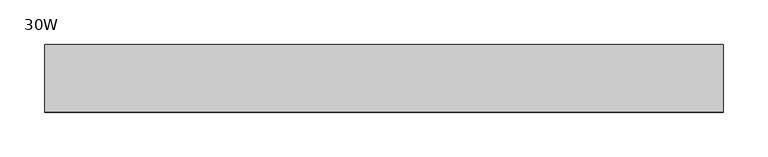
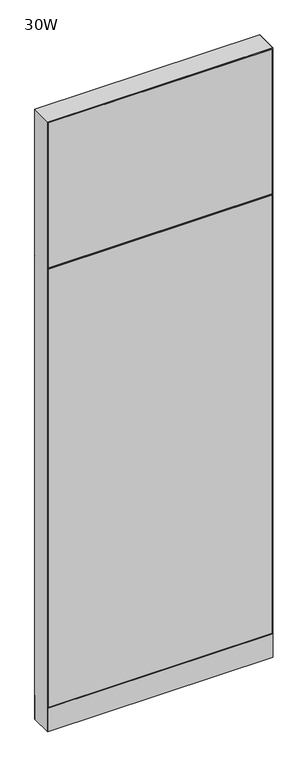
"""IFC4 building model written with IfcOpenShell, lengths in millimetres: furniture geometry, Steelcase - Montage - Frame - 86H - Enhanced Monolithic - Base Cavity : 30W."""

import ifcopenshell
import ifcopenshell.guid

model = None  # the IFC model being written
_history = None  # IfcOwnerHistory: only IFC2X3 demands one
_inside = {}  # id of a spatial element -> (the spatial element, [elements in it])
_under = {}  # id of a project, library or spatial element -> (it, [spatial elements below it])
_declared = {}  # id of a project -> (the project, [libraries it declares])
_typed = {}  # id of a type object -> (the type object, [elements of that type])
_made_of = {}  # id of a material, layer set ... -> (it, [elements and type objects made of it])


def new_model(schema):
    """Start an empty IFC model of exactly this schema.

    Asked for "IFC4X3", IfcOpenShell would pick the latest addendum, in which some entities
    have other attributes; the version numbers below select the first issue.
    IFC2X3 requires an IfcOwnerHistory on every rooted entity: one is made here for all.
    """
    global model, _history
    if schema == "IFC4X3":
        model = ifcopenshell.file(schema_version=(4, 3, 0, 0))
    else:
        model = ifcopenshell.file(schema=schema)
    _inside.clear()
    _under.clear()
    _declared.clear()
    _typed.clear()
    _made_of.clear()
    _history = None
    if model.schema == "IFC2X3":
        org = make("IfcOrganization", Name="unknown")
        user = make(
            "IfcPersonAndOrganization",
            ThePerson=make("IfcPerson", FamilyName="unknown"),
            TheOrganization=org,
        )
        app = make(
            "IfcApplication",
            ApplicationDeveloper=org,
            Version="unknown",
            ApplicationFullName="unknown",
            ApplicationIdentifier="unknown",
        )
        _history = make(
            "IfcOwnerHistory",
            OwningUser=user,
            OwningApplication=app,
            ChangeAction="ADDED",
            CreationDate=0,
        )
    return model


def make(cls, **values):
    """One entity of the class cls with the attributes given. An attribute that is None is left unset."""
    return model.create_entity(
        cls, **{name: value for name, value in values.items() if value is not None}
    )


def rooted(cls, **values):
    """An entity with a GlobalId (a new one), such as an element, a storey or a relation."""
    return make(cls, GlobalId=ifcopenshell.guid.new(), OwnerHistory=_history, **values)


def si_unit(unit_type, name, prefix=None):
    """IfcSIUnit, for example si_unit("LENGTHUNIT", "METRE", prefix="MILLI")."""
    return make("IfcSIUnit", UnitType=unit_type, Prefix=prefix, Name=name)


def assignment(units):
    """IfcUnitAssignment: the units of a project."""
    return None if units is None else make("IfcUnitAssignment", Units=units)


def point(xyz):
    """IfcCartesianPoint."""
    return None if xyz is None else make("IfcCartesianPoint", Coordinates=xyz)


def direction(xyz):
    """IfcDirection."""
    return None if xyz is None else make("IfcDirection", DirectionRatios=xyz)


def frame(location, z_axis=None, x_axis=None):
    """IfcAxis2Placement3D, a coordinate frame: its origin and axes. An axis left out is left unset."""
    return make(
        "IfcAxis2Placement3D",
        Location=point(location),
        Axis=direction(z_axis),
        RefDirection=direction(x_axis),
    )


def frame_2d(location, x_axis=None):
    """IfcAxis2Placement2D, a coordinate frame in the plane: its origin and x axis."""
    return make(
        "IfcAxis2Placement2D", Location=point(location), RefDirection=direction(x_axis)
    )


def origin():
    """The frame at (0, 0, 0) with its axes left unset."""
    return frame((0.0, 0.0, 0.0))


def origin_with_axes():
    """The frame at (0, 0, 0) with the z axis (0, 0, 1) and the x axis (1, 0, 0) written out."""
    return frame((0.0, 0.0, 0.0), z_axis=(0.0, 0.0, 1.0), x_axis=(1.0, 0.0, 0.0))


def place(relative_to, where):
    """IfcLocalPlacement: puts the frame where relative to a parent placement (None: the world)."""
    return make(
        "IfcLocalPlacement", PlacementRelTo=relative_to, RelativePlacement=where
    )


def context(
    kind, dimensions, precision=None, world=None, true_north=None, identifier=None
):
    """IfcGeometricRepresentationContext, for example the 3D "Model" context."""
    return make(
        "IfcGeometricRepresentationContext",
        ContextIdentifier=identifier,
        ContextType=kind,
        CoordinateSpaceDimension=dimensions,
        Precision=precision,
        WorldCoordinateSystem=world,
        TrueNorth=true_north,
    )


def project(units=None, contexts=None):
    """IfcProject with its units and contexts."""
    return rooted(
        "IfcProject",
        Name="project",
        RepresentationContexts=contexts,
        UnitsInContext=assignment(units),
    )


def spatial(cls, under=None, at=None, **own):
    """A site, building, storey or space (cls), placed at a placement, below another one or the project."""
    s = rooted(cls, ObjectPlacement=at, **own)
    if under is not None:
        _under.setdefault(under.id(), (under, []))[1].append(s)
    return s


def polyline(points):
    """IfcPolyline through the points."""
    return make("IfcPolyline", Points=[point(p) for p in points])


def circle_curve(where, radius):
    """IfcCircle in the frame where."""
    return make("IfcCircle", Position=where, Radius=radius)


def trimmed(basis, trim1, trim2, sense, master):
    """IfcTrimmedCurve: the piece of a basis curve between two trims."""
    return make(
        "IfcTrimmedCurve",
        BasisCurve=basis,
        Trim1=trim1,
        Trim2=trim2,
        SenseAgreement=sense,
        MasterRepresentation=master,
    )


def segment(curve, same_sense, transition):
    """IfcCompositeCurveSegment."""
    return make(
        "IfcCompositeCurveSegment",
        Transition=transition,
        SameSense=same_sense,
        ParentCurve=curve,
    )


def composite_curve(segments, self_intersect=None):
    """IfcCompositeCurve: segments joined end to end."""
    return make("IfcCompositeCurve", Segments=segments, SelfIntersect=self_intersect)


def outline(outer, holes=None, kind="AREA"):
    """IfcArbitraryClosedProfileDef: a profile drawn as a closed curve; with holes, ...WithVoids."""
    if holes is None:
        return make("IfcArbitraryClosedProfileDef", ProfileType=kind, OuterCurve=outer)
    return make(
        "IfcArbitraryProfileDefWithVoids",
        ProfileType=kind,
        OuterCurve=outer,
        InnerCurves=holes,
    )


def extrude(swept, where, along, depth):
    """IfcExtrudedAreaSolid: the profile swept, set in the frame where, extruded along a direction by depth."""
    return make(
        "IfcExtrudedAreaSolid",
        SweptArea=swept,
        Position=where,
        ExtrudedDirection=direction(along),
        Depth=depth,
    )


def faces_of(points, faces, orient=None, outer=None):
    """IfcFace entities. A face is a list of loops; a loop is a list of indices into points, from 0.

    orient and outer hold one flag for each loop. By default every Orientation is true, the
    first loop of a face is its IfcFaceOuterBound and the others are IfcFaceBound.
    """
    made = []
    for i, loops in enumerate(faces):
        bounds = []
        for j, loop in enumerate(loops):
            is_outer = j == 0 if outer is None else outer[i][j]
            bounds.append(
                make(
                    "IfcFaceOuterBound" if is_outer else "IfcFaceBound",
                    Bound=make("IfcPolyLoop", Polygon=[points[k] for k in loop]),
                    Orientation=True if orient is None else orient[i][j],
                )
            )
        made.append(make("IfcFace", Bounds=bounds))
    return made


def faceted_brep(points, faces, orient=None, outer=None, voids=None):
    """IfcFacetedBrep: a solid bounded by flat faces; with voids (closed shells), ...WithVoids."""
    shared = [point(p) for p in points]
    hull = make("IfcClosedShell", CfsFaces=faces_of(shared, faces, orient, outer))
    if voids is None:
        return make("IfcFacetedBrep", Outer=hull)
    return make(
        "IfcFacetedBrepWithVoids",
        Outer=hull,
        Voids=[
            make(cls, CfsFaces=faces_of(shared, fs, o, b)) for cls, fs, o, b in voids
        ],
    )


def shape(context_of_items, identifier, shape_type, items):
    """IfcShapeRepresentation: the items that make up one representation, for example the "Body"."""
    return make(
        "IfcShapeRepresentation",
        ContextOfItems=context_of_items,
        RepresentationIdentifier=identifier,
        RepresentationType=shape_type,
        Items=items,
    )


def source(mapping_origin, context_of_items, identifier, shape_type, items):
    """IfcRepresentationMap: a shape defined once, which mapped items show again and again."""
    return make(
        "IfcRepresentationMap",
        MappingOrigin=mapping_origin,
        MappedRepresentation=shape(context_of_items, identifier, shape_type, items),
    )


def transform(
    local_origin,
    x_axis=None,
    y_axis=None,
    z_axis=None,
    scale=None,
    scale2=None,
    scale3=None,
    uniform=True,
):
    """IfcCartesianTransformationOperator3D, or its non-uniform kind. x_axis, y_axis, z_axis: its Axis1, 2, 3."""
    if uniform:
        return make(
            "IfcCartesianTransformationOperator3D",
            Axis1=direction(x_axis),
            Axis2=direction(y_axis),
            LocalOrigin=point(local_origin),
            Scale=scale,
            Axis3=direction(z_axis),
        )
    return make(
        "IfcCartesianTransformationOperator3DnonUniform",
        Axis1=direction(x_axis),
        Axis2=direction(y_axis),
        LocalOrigin=point(local_origin),
        Scale=scale,
        Axis3=direction(z_axis),
        Scale2=scale2,
        Scale3=scale3,
    )


def mapped(mapping_source, mapping_target):
    """IfcMappedItem: shows the shape of a source again, moved by a transform."""
    return make(
        "IfcMappedItem", MappingSource=mapping_source, MappingTarget=mapping_target
    )


def made_of(thing, what):
    """Note that an element or type object is made of a material, layer set ...; save() writes the relation."""
    if what is not None:
        _made_of.setdefault(what.id(), (what, []))[1].append(thing)
    return thing


def element(
    cls,
    number,
    at=None,
    inside=None,
    cuts=None,
    type_object=None,
    material=None,
    context=None,
    identifier="Body",
    shape_type=None,
    held_by="IfcProductDefinitionShape",
    body=None,
    shapes=None,
    **own,
):
    """One element of the class cls, such as IfcWall. Its Tag is "e" and its number.

    at: its placement. inside: the storey or other place that contains it. cuts: it is an
    opening in that element (IfcRelVoidsElement). A single representation is given by context,
    identifier, shape_type and body (its items); several are given by shapes. held_by: the class
    of the entity that holds the representations. save() writes the other relations.
    """
    e = rooted(cls, Tag="e%d" % number, ObjectPlacement=at, **own)
    if body is not None:
        shapes = [shape(context, identifier, shape_type, body)]
    if shapes is not None:
        e.Representation = make(held_by, Representations=shapes)
    if inside is not None:
        _inside.setdefault(inside.id(), (inside, []))[1].append(e)
    if cuts is not None:
        rooted(
            "IfcRelVoidsElement", RelatingBuildingElement=cuts, RelatedOpeningElement=e
        )
    if type_object is not None:
        _typed.setdefault(type_object.id(), (type_object, []))[1].append(e)
    return made_of(e, material)


def aggregate(whole, parts):
    """IfcRelAggregates: a whole, such as a stair, and the parts it consists of."""
    return rooted("IfcRelAggregates", RelatingObject=whole, RelatedObjects=parts)


def save(model, path):
    """Write the relations noted so far, then the file.

    IfcRelAggregates (storeys below a building ...), IfcRelContainedInSpatialStructure (elements
    in a storey), IfcRelDefinesByType, IfcRelAssociatesMaterial and IfcRelDeclares: one each for
    every whole, place, type object, material and project.
    """
    for whole, parts in _under.values():
        aggregate(whole, parts)
    for where, things in _inside.values():
        rooted(
            "IfcRelContainedInSpatialStructure",
            RelatedElements=things,
            RelatingStructure=where,
        )
    for kind, things in _typed.values():
        rooted("IfcRelDefinesByType", RelatedObjects=things, RelatingType=kind)
    for what, things in _made_of.values():
        rooted("IfcRelAssociatesMaterial", RelatedObjects=things, RelatingMaterial=what)
    for by, libraries in _declared.values():
        rooted("IfcRelDeclares", RelatingContext=by, RelatedDefinitions=libraries)
    model.write(path)


def furniture_30w_bd17a0e2(model_context):
    return source(origin(), model_context, "Body", "SolidModel", [
        faceted_brep([(6.3499917, 31.7526299, 1666.8749997), (6.3499917, 31.7526299, 1654.1750003), (755.6500047, 31.7526299, 1654.1750003), (755.6500047, 31.7526299, 1666.8749997), (-5.4e-06, 38.102627, 1660.5249973), (762.0, 38.1026253, 1660.5249956)], [[[0, 1, 2, 3]], [[4, 1, 0]], [[3, 2, 5]], [[4, 0, 3, 5]], [[5, 2, 1, 4]]]),
        extrude(outline(polyline([(3.175, 31.7500194), (3.175, 38.1000194), (758.825, 38.1000194), (758.825, 31.7500194), (3.175, 31.7500194)])), frame((0.0, 0.0, 92.075), z_axis=(0.0, 0.0, 1.0), x_axis=(1.0, 0.0, 0.0)), (0.0, 0.0, 1.0), 1565.275),
        extrude(outline(polyline([(3.175, 31.7500194), (3.175, 38.1000194), (758.825, 38.1000194), (758.825, 31.7500194), (3.175, 31.7500194)])), frame((0.0, 0.0, 1663.7), z_axis=(0.0, 0.0, 1.0), x_axis=(1.0, 0.0, 0.0)), (0.0, 0.0, 1.0), 517.525),
        faceted_brep([(6.3499917, -31.7526299, 1666.8749997), (755.6500047, -31.7526299, 1666.8749997), (755.6500047, -31.7526299, 1654.1750003), (6.3499917, -31.7526299, 1654.1750003), (-5.4e-06, -38.102627, 1660.5250027), (762.0, -38.1026253, 1660.5250044)], [[[0, 1, 2, 3]], [[4, 0, 3]], [[1, 5, 2]], [[4, 5, 1, 0]], [[5, 4, 3, 2]]]),
        extrude(outline(polyline([(3.175, -31.7500194), (758.825, -31.7500194), (758.825, -38.1000194), (3.175, -38.1000194), (3.175, -31.7500194)])), frame((0.0, 0.0, 92.075), z_axis=(0.0, 0.0, 1.0), x_axis=(1.0, 0.0, 0.0)), (0.0, 0.0, 1.0), 1565.275),
        extrude(outline(polyline([(3.175, -31.7500194), (758.825, -31.7500194), (758.825, -38.1000194), (3.175, -38.1000194), (3.175, -31.7500194)])), frame((0.0, 0.0, 1663.7), z_axis=(0.0, 0.0, 1.0), x_axis=(1.0, 0.0, 0.0)), (0.0, 0.0, 1.0), 517.525),
        extrude(outline(polyline([(6.350003, -31.7499985), (755.649997, -31.7499985), (762.0, -38.1000015), (0.0, -38.1000015), (6.350003, -31.7499985)])), frame((0.0, 0.0, 4.064), z_axis=(0.0, 0.0, 1.0), x_axis=(1.0, 0.0, 0.0)), (0.0, 0.0, 1.0), 84.835997),
        extrude(outline(polyline([(6.3500002, 31.7500017), (0.0, 38.1000015), (762.0, 38.1000015), (755.6500002, 31.7500017), (6.3500002, 31.7500017)])), frame((0.0, 0.0, 4.064), z_axis=(0.0, 0.0, 1.0), x_axis=(1.0, 0.0, 0.0)), (0.0, 0.0, 1.0), 84.835997),
        faceted_brep([(762.0, -38.1000015, 2184.4), (0.0, -38.1000015, 2184.4), (6.3500484, -31.749953, 2178.0499516), (755.6499516, -31.749953, 2178.0499516), (6.3500484, 31.749953, 2178.0499516), (755.6499516, 31.749953, 2178.0499516), (0.0, 38.1000015, 2184.4), (762.0, 38.1000015, 2184.4)], [[[0, 1, 2, 3]], [[3, 2, 4, 5]], [[6, 7, 5, 4]], [[1, 0, 7, 6]], [[2, 1, 6, 4]], [[0, 3, 5, 7]]]),
        extrude(outline(composite_curve([segment(trimmed(circle_curve(frame_2d((44.45, 0.0)), 15.24), [point((29.21, 0.0))], [point((59.69, 0.0))], False, "CARTESIAN"), True, "CONTINUOUS"), segment(trimmed(circle_curve(frame_2d((44.45, 0.0)), 15.24), [point((59.69, 0.0))], [point((29.21, 0.0))], False, "CARTESIAN"), True, "CONTINUOUS")], self_intersect=False)), origin_with_axes(), (0.0, 0.0, 1.0), 4.064),
        extrude(outline(composite_curve([segment(trimmed(circle_curve(frame_2d((717.55, 0.0)), 15.24), [point((702.31, 0.0))], [point((732.79, 0.0))], False, "CARTESIAN"), True, "CONTINUOUS"), segment(trimmed(circle_curve(frame_2d((717.55, 0.0)), 15.24), [point((732.79, 0.0))], [point((702.31, 0.0))], False, "CARTESIAN"), True, "CONTINUOUS")], self_intersect=False)), origin_with_axes(), (0.0, 0.0, 1.0), 4.064),
        faceted_brep([(762.0, -38.1000106, 4.064), (762.0, 38.1000015, 4.064), (762.0, 38.1000015, 2184.4), (762.0, -38.1000106, 2184.3999637), (0.0, 38.1000015, 4.064), (0.0, -38.1000015, 4.064), (0.0, -38.1000015, 2184.4), (0.0, 38.1000015, 2184.4), (755.6499879, 31.7500017, 606.425), (6.35, 31.7500017, 606.425), (6.3499998, 31.7500017, 619.125), (755.6499879, 31.7500017, 619.125), (6.35, -31.7499985, 619.125), (755.6499879, -31.7499985, 619.125), (6.350003, -31.7499985, 606.425), (755.6499879, -31.7499985, 606.425), (755.6499879, 31.7500017, 1130.3), (6.35, 31.7500017, 1130.3), (6.3499998, 31.7500017, 1143.0), (755.6499879, 31.7500017, 1143.0), (6.35, -31.7499985, 1143.0), (755.6499879, -31.7499985, 1143.0), (6.350003, -31.7499985, 1130.3), (755.6499879, -31.7499985, 1130.3), (6.35, 31.7500015, 4.064), (6.35, -31.7500015, 4.064), (755.6499879, 31.7499894, 4.064), (755.6499879, -31.7499985, 4.064), (6.35, 31.7500015, 2178.05), (6.3499999, 31.7500016, 1666.875), (6.3499998, 31.7500017, 1654.175), (6.3500015, -31.75, 1654.175), (6.350003, -31.7499985, 1666.875), (6.35, -31.7500015, 2178.05), (755.6499879, 31.7500017, 1654.175), (755.6499879, -31.7499985, 1654.175), (755.6499879, 31.7500017, 1666.875), (755.6499879, -31.7499985, 1666.875), (755.6499879, -31.7499985, 2178.0499516), (755.6499879, 31.7499895, 2178.0499516)], [[[0, 1, 2, 3]], [[4, 5, 6, 7]], [[8, 9, 10, 11]], [[11, 10, 12, 13]], [[13, 12, 14, 15]], [[9, 8, 15, 14]], [[16, 17, 18, 19]], [[19, 18, 20, 21]], [[21, 20, 22, 23]], [[17, 16, 23, 22]], [[24, 25, 5, 4]], [[26, 1, 0, 27]], [[24, 4, 7, 28, 29, 30, 18, 17, 10, 9]], [[5, 25, 14, 12, 22, 20, 31, 32, 33, 6]], [[25, 24, 9, 14]], [[18, 30, 31, 20]], [[10, 17, 22, 12]], [[32, 29, 28, 33]], [[26, 27, 15, 8]], [[16, 11, 13, 23]], [[34, 19, 21, 35]], [[36, 37, 38, 39]], [[27, 0, 3, 38, 37, 35, 21, 23, 13, 15]], [[1, 26, 8, 11, 16, 19, 34, 36, 39, 2]], [[7, 6, 33, 28]], [[3, 2, 39, 38]], [[34, 30, 29, 36]], [[36, 29, 32, 37]], [[37, 32, 31, 35]], [[30, 34, 35, 31]]]),
    ])


if __name__ == "__main__":
    model = new_model("IFC4")
    model_context = context("Model", 3, world=origin())
    ifc_project = project(units=[si_unit("LENGTHUNIT", "METRE", prefix="MILLI")], contexts=[model_context])
    site = spatial("IfcSite", under=ifc_project)
    building = spatial("IfcBuilding", under=site)
    placement = place(None, origin())
    furniture_30w_shape = furniture_30w_bd17a0e2(model_context)
    element("IfcFurniture", 1, ObjectType="Steelcase - Montage - Frame - 86H - Enhanced Monolithic - Base Cavity : 30W", at=placement, inside=building, context=model_context, shape_type="MappedRepresentation", body=[
        mapped(furniture_30w_shape, transform((0.0, 0.0, 0.0), x_axis=(1.0, 0.0, 0.0), y_axis=(0.0, 1.0, 0.0), z_axis=(0.0, 0.0, 1.0))),
    ])
    save(model, "model.ifc")
